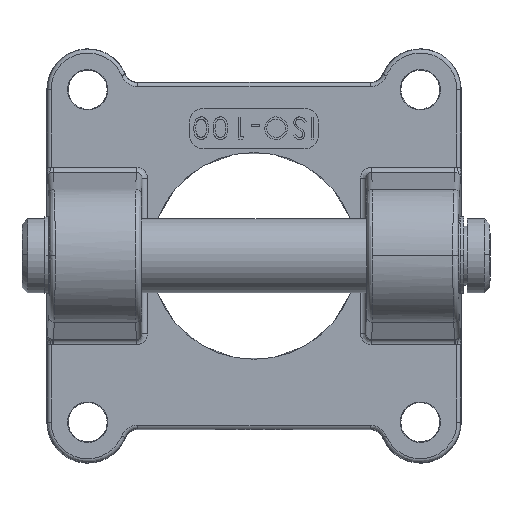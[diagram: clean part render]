
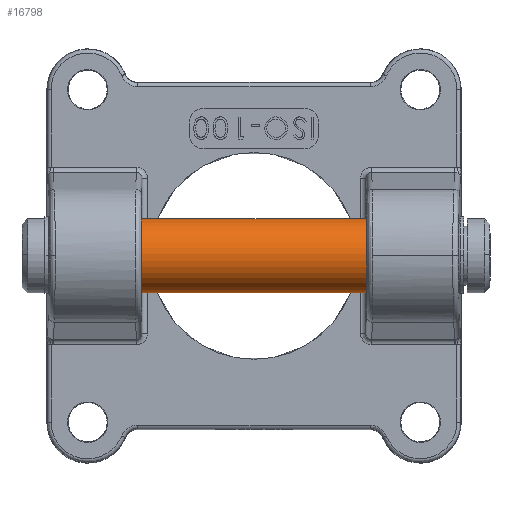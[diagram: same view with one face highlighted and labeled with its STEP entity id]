
A CAD part, top view. The second image highlights one B-rep face of the part: STEP entity #16798.
In plain terms, the highlighted cylindrical face has radius 10 mm (diameter 20 mm), a partial arc.
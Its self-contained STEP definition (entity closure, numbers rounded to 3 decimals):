
#384 = LINE ( 'NONE', #24429, #5036 ) ;
#2181 = LINE ( 'NONE', #12459, #19730 ) ;
#2777 = ORIENTED_EDGE ( 'NONE', *, *, #11056, .F. ) ;
#3293 = ORIENTED_EDGE ( 'NONE', *, *, #24919, .T. ) ;
#3460 = DIRECTION ( 'NONE',  ( 1., 0., 0. ) ) ;
#4220 = EDGE_LOOP ( 'NONE', ( #22384, #3293, #5995, #2777 ) ) ;
#4998 = CYLINDRICAL_SURFACE ( 'NONE', #27333, 10. ) ;
#5036 = VECTOR ( 'NONE', #6270, 1000. ) ;
#5995 = ORIENTED_EDGE ( 'NONE', *, *, #24747, .T. ) ;
#6270 = DIRECTION ( 'NONE',  ( -1., 0., 0. ) ) ;
#6334 = DIRECTION ( 'NONE',  ( -1., 0., 0. ) ) ;
#7992 = DIRECTION ( 'NONE',  ( 0., -0.999, 0.041 ) ) ;
#11056 = EDGE_CURVE ( 'NONE', #12504, #25478, #2181, .T. ) ;
#12357 = CARTESIAN_POINT ( 'NONE',  ( -91.077, -13.989, 52.381 ) ) ;
#12459 = CARTESIAN_POINT ( 'NONE',  ( 27.423, -13.989, 52.381 ) ) ;
#12504 = VERTEX_POINT ( 'NONE', #17652 ) ;
#14548 = AXIS2_PLACEMENT_3D ( 'NONE', #20418, #6334, #20218 ) ;
#14800 = CARTESIAN_POINT ( 'NONE',  ( -91.077, -3.997, 51.976 ) ) ;
#15038 = FACE_OUTER_BOUND ( 'NONE', #4220, .T. ) ;
#16798 = ADVANCED_FACE ( 'NONE', ( #15038 ), #4998, .T. ) ;
#17397 = CARTESIAN_POINT ( 'NONE',  ( 27.423, -3.997, 51.976 ) ) ;
#17652 = CARTESIAN_POINT ( 'NONE',  ( 19.423, -13.989, 52.381 ) ) ;
#17913 = CIRCLE ( 'NONE', #28785, 10. ) ;
#18754 = EDGE_CURVE ( 'NONE', #12504, #25294, #24538, .T. ) ;
#19292 = DIRECTION ( 'NONE',  ( -1., 0., 0. ) ) ;
#19730 = VECTOR ( 'NONE', #28649, 1000. ) ;
#20218 = DIRECTION ( 'NONE',  ( 0., -0.999, 0.041 ) ) ;
#20418 = CARTESIAN_POINT ( 'NONE',  ( 19.423, -3.997, 51.976 ) ) ;
#21539 = CARTESIAN_POINT ( 'NONE',  ( 19.423, 5.995, 51.571 ) ) ;
#22384 = ORIENTED_EDGE ( 'NONE', *, *, #18754, .T. ) ;
#24429 = CARTESIAN_POINT ( 'NONE',  ( 27.423, 5.995, 51.571 ) ) ;
#24538 = CIRCLE ( 'NONE', #14548, 10. ) ;
#24643 = VERTEX_POINT ( 'NONE', #25539 ) ;
#24747 = EDGE_CURVE ( 'NONE', #24643, #25478, #17913, .T. ) ;
#24919 = EDGE_CURVE ( 'NONE', #25294, #24643, #384, .T. ) ;
#25294 = VERTEX_POINT ( 'NONE', #21539 ) ;
#25478 = VERTEX_POINT ( 'NONE', #12357 ) ;
#25539 = CARTESIAN_POINT ( 'NONE',  ( -91.077, 5.995, 51.571 ) ) ;
#27333 = AXIS2_PLACEMENT_3D ( 'NONE', #17397, #19292, #29110 ) ;
#28649 = DIRECTION ( 'NONE',  ( -1., 0., 0. ) ) ;
#28785 = AXIS2_PLACEMENT_3D ( 'NONE', #14800, #3460, #7992 ) ;
#29110 = DIRECTION ( 'NONE',  ( 0., -0.999, 0.041 ) ) ;
